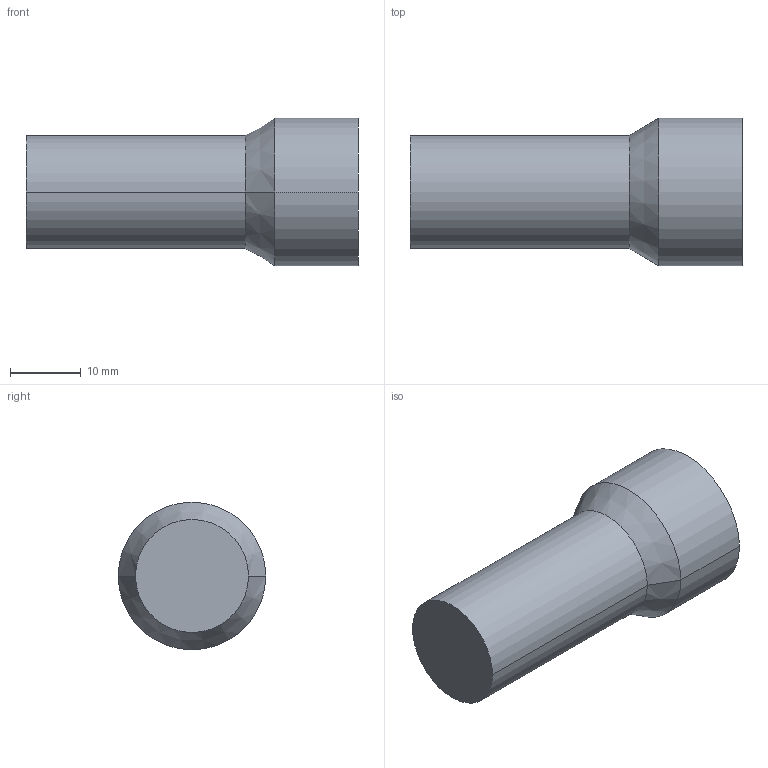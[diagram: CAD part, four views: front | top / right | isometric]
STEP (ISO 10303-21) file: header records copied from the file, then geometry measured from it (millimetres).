
FILE_DESCRIPTION( ( '' ), '1' );
FILE_NAME( 'G:/SMC狟婥/KQ2P-16_Old.stp', '2023-03-08T06:02:24', ( '' ), ( '' ), ' ', ' ', ' ' );
FILE_SCHEMA( ( 'CONFIG_CONTROL_DESIGN' ) );
Length unit declared in the file: millimetre
Products named in the file (1): 1
Bounding box: 47 x 20.9 x 20.9 mm (x, y, z)
Volume: 11406.5 mm3; surface area: 3158.2 mm2
Topology: 1 solids, 1 shells, 8 faces, 14 edges, 8 vertices
Faces by surface type: cylinder 4, cone 2, plane 2
Entity records: 238 total; most frequent: DIRECTION 40, CARTESIAN_POINT 31, ORIENTED_EDGE 28, AXIS2_PLACEMENT_3D 17, EDGE_CURVE 14, ADVANCED_FACE 8, FACE_OUTER_BOUND 8, EDGE_LOOP 8
